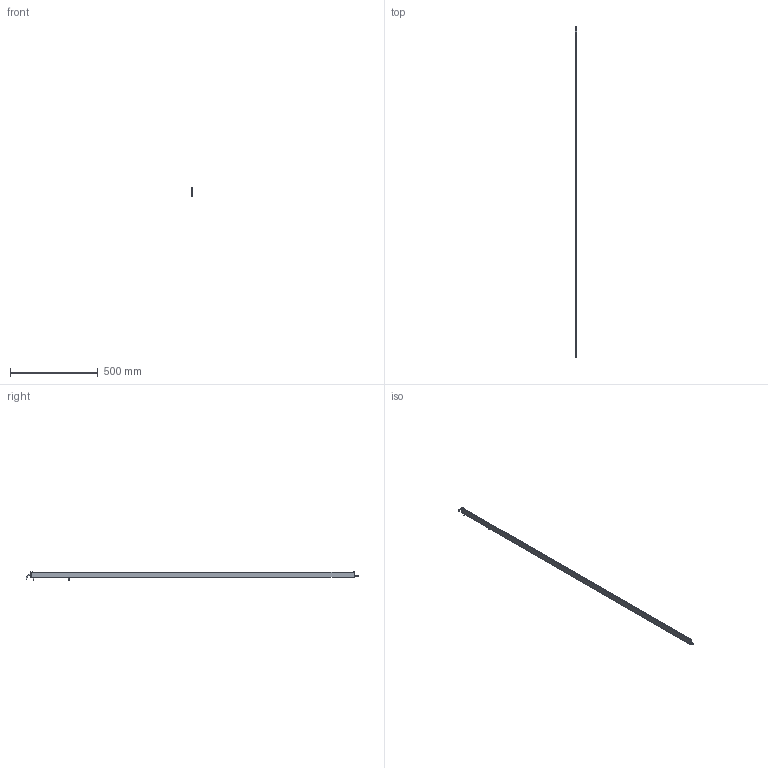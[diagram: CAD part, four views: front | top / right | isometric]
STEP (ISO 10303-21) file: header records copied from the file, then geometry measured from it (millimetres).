
FILE_DESCRIPTION (( 'STEP AP214' ), '1' );
FILE_NAME ('ILG-B-K1-1840mm.STEP', '2017-07-10T12:16:14', ( '' ), ( '' ), 'SwSTEP 2.0', 'SolidWorks 2016', '' );
FILE_SCHEMA (( 'AUTOMOTIVE_DESIGN' ));
Length unit declared in the file: millimetre
Products named in the file (1): ILG-B-K1-1840mm
Bounding box: 9 x 1888.25 x 46.21 mm (x, y, z)
Volume: 206470.6 mm3; surface area: 304477.5 mm2
Topology: 11 solids, 11 shells, 453 faces, 1150 edges, 724 vertices
Faces by surface type: plane 216, cylinder 152, cone 73, torus 12
Entity records: 18769 total; most frequent: CARTESIAN_POINT 2540, DIRECTION 2424, ORIENTED_EDGE 2284, EDGE_CURVE 1142, AXIS2_PLACEMENT_3D 896, VERTEX_POINT 724, VECTOR 632, LINE 632
